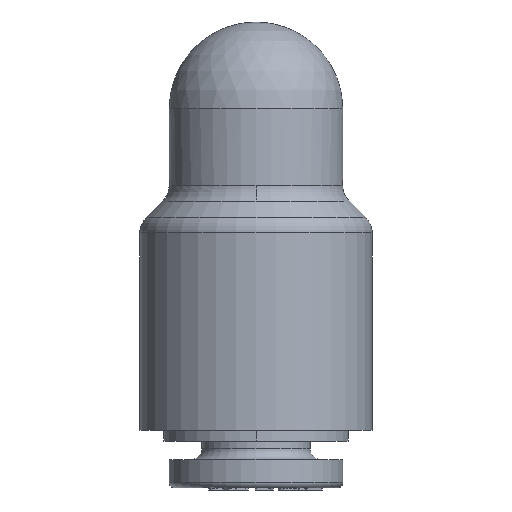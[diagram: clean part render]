
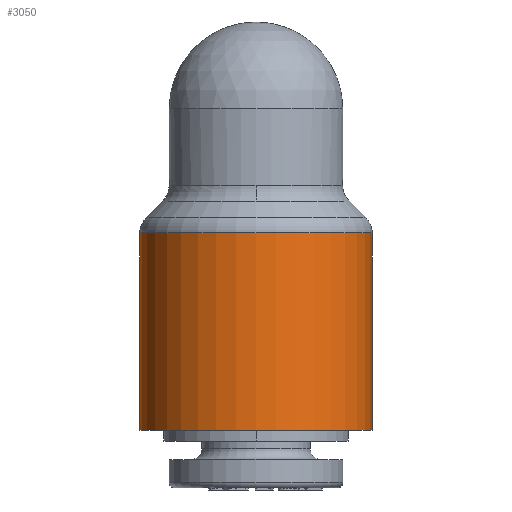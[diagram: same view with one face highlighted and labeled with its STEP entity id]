
A CAD part, front view. The second image highlights one B-rep face of the part: STEP entity #3050.
In plain terms, the highlighted cylindrical face has radius 5.35 mm (diameter 10.7 mm), a partial arc.
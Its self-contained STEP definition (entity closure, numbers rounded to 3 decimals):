
#178 = VECTOR ( 'NONE', #6789, 1000. ) ;
#292 = DIRECTION ( 'NONE',  ( 0., 0., -1. ) ) ;
#442 = AXIS2_PLACEMENT_3D ( 'NONE', #6461, #11533, #1619 ) ;
#583 = EDGE_LOOP ( 'NONE', ( #10395, #4610, #9782, #2298 ) ) ;
#989 = CIRCLE ( 'NONE', #4267, 5.35 ) ;
#1279 = VERTEX_POINT ( 'NONE', #12120 ) ;
#1619 = DIRECTION ( 'NONE',  ( 1., 0., 0. ) ) ;
#1804 = DIRECTION ( 'NONE',  ( 0., 0., 1. ) ) ;
#2298 = ORIENTED_EDGE ( 'NONE', *, *, #6312, .T. ) ;
#2397 = AXIS2_PLACEMENT_3D ( 'NONE', #6970, #292, #4075 ) ;
#2922 = EDGE_CURVE ( 'NONE', #11154, #1279, #5093, .T. ) ;
#3050 = ADVANCED_FACE ( 'NONE', ( #7610 ), #10604, .T. ) ;
#3935 = DIRECTION ( 'NONE',  ( 1., 0., 0. ) ) ;
#4075 = DIRECTION ( 'NONE',  ( -1., 0., 0. ) ) ;
#4253 = CIRCLE ( 'NONE', #2397, 5.35 ) ;
#4267 = AXIS2_PLACEMENT_3D ( 'NONE', #6639, #1804, #3935 ) ;
#4477 = CARTESIAN_POINT ( 'NONE',  ( -5.35, 0., -14.8 ) ) ;
#4610 = ORIENTED_EDGE ( 'NONE', *, *, #6824, .T. ) ;
#5093 = LINE ( 'NONE', #6842, #178 ) ;
#5451 = EDGE_CURVE ( 'NONE', #12130, #11751, #8039, .T. ) ;
#6312 = EDGE_CURVE ( 'NONE', #11751, #1279, #4253, .T. ) ;
#6461 = CARTESIAN_POINT ( 'NONE',  ( 0., 0., -3.95 ) ) ;
#6639 = CARTESIAN_POINT ( 'NONE',  ( 0., 0., -14.8 ) ) ;
#6789 = DIRECTION ( 'NONE',  ( 0., 0., 1. ) ) ;
#6824 = EDGE_CURVE ( 'NONE', #11154, #12130, #989, .T. ) ;
#6842 = CARTESIAN_POINT ( 'NONE',  ( -5.35, 0., -3.95 ) ) ;
#6970 = CARTESIAN_POINT ( 'NONE',  ( 0., 0., -5.714 ) ) ;
#7093 = CARTESIAN_POINT ( 'NONE',  ( 5.35, 0., -3.95 ) ) ;
#7610 = FACE_OUTER_BOUND ( 'NONE', #583, .T. ) ;
#7759 = CARTESIAN_POINT ( 'NONE',  ( 5.35, 0., -14.8 ) ) ;
#8039 = LINE ( 'NONE', #7093, #10985 ) ;
#9020 = DIRECTION ( 'NONE',  ( 0., 0., 1. ) ) ;
#9782 = ORIENTED_EDGE ( 'NONE', *, *, #5451, .T. ) ;
#10395 = ORIENTED_EDGE ( 'NONE', *, *, #2922, .F. ) ;
#10604 = CYLINDRICAL_SURFACE ( 'NONE', #442, 5.35 ) ;
#10985 = VECTOR ( 'NONE', #9020, 1000. ) ;
#11074 = CARTESIAN_POINT ( 'NONE',  ( 5.35, 0., -5.714 ) ) ;
#11154 = VERTEX_POINT ( 'NONE', #4477 ) ;
#11533 = DIRECTION ( 'NONE',  ( 0., 0., 1. ) ) ;
#11751 = VERTEX_POINT ( 'NONE', #11074 ) ;
#12120 = CARTESIAN_POINT ( 'NONE',  ( -5.35, 0., -5.714 ) ) ;
#12130 = VERTEX_POINT ( 'NONE', #7759 ) ;
